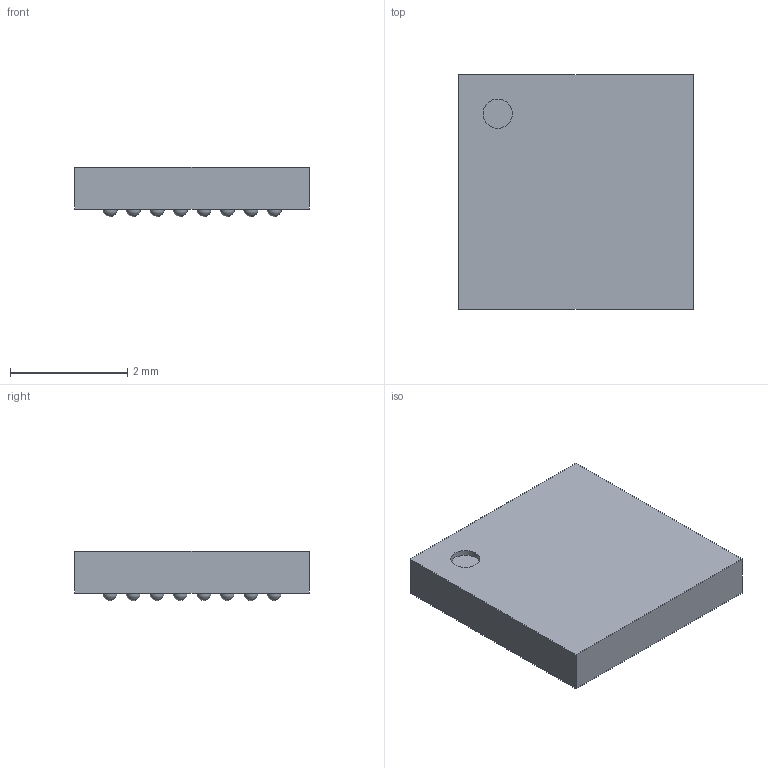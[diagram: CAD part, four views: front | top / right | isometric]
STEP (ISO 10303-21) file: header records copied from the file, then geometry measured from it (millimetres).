
FILE_DESCRIPTION(('Open CASCADE Model'),'2;1');
FILE_NAME('Open CASCADE Shape Model','2022-11-04T15:24:54',('Author'),( 'Open CASCADE'),'Open CASCADE STEP processor 6.8','Open CASCADE 6.8' ,'Unknown');
FILE_SCHEMA(('AUTOMOTIVE_DESIGN { 1 0 10303 214 1 1 1 1 }'));
Length unit declared in the file: millimetre
Products named in the file (5): BGA64C40P8X8_400X400X84.step; Open CASCADE STEP translator 6.8 5.1; Body; Open CASCADE STEP translator 6.8 5.2.1; ball
Assembly tree (67 placements, depth 3):
  BGA64C40P8X8_400X400X84.step
    Open CASCADE STEP translator 6.8 5.1
    Body
      Open CASCADE STEP translator 6.8 5.2.1
    ball  x64
Bounding box: 4 x 4 x 0.84 mm (x, y, z)
Volume: 11.9 mm3; surface area: 56.3 mm2
Topology: 65 solids, 66 shells, 73 faces, 208 edges, 139 vertices
Faces by surface type: sphere 64, plane 8, cylinder 1
Full cylindrical faces by diameter (mm): 0.5 x1
Entity records: 851 total; most frequent: DIRECTION 175, CARTESIAN_POINT 106, AXIS2_PLACEMENT_3D 81, PRODUCT_DEFINITION_SHAPE 72, CONTEXT_DEPENDENT_SHAPE_REPRESENTATION 67, ITEM_DEFINED_TRANSFORMATION 67, NEXT_ASSEMBLY_USAGE_OCCURRENCE 67, ORIENTED_EDGE 31
